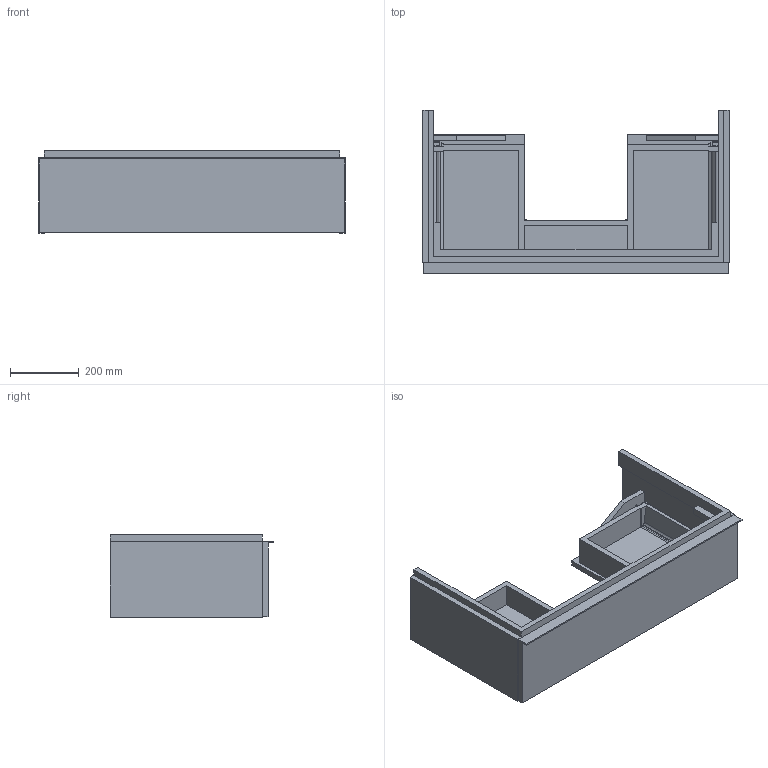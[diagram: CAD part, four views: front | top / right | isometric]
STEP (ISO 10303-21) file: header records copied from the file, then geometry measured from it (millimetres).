
FILE_DESCRIPTION(/* description */ (''),/* implementation_level */ '2;1');
FILE_NAME(/* name */ 'C:\Geberit-Teile\Export 2019\840290000\stp\841292000.stp',/* time_stamp */ '2019-07-19T13:40:23+02:00',/* author */ ('JANAN'),/* organization */ (''),/* preprocessor_version */ 'ST-DEVELOPER v16.13',/* originating_system */ 'Autodesk Inventor 2018',/* authorisation */ '');
FILE_SCHEMA (('AUTOMOTIVE_DESIGN { 1 0 10303 214 3 1 1 }'));
Length unit declared in the file: millimetre
Products named in the file (2): US-f-1-WT Ge+iCn B90 1-Schbl Ech-nat; 840290000
Assembly tree (1 placements, depth 2):
  US-f-1-WT Ge+iCn B90 1-Schbl Ech-nat
    840290000
Bounding box: 890 x 475.9 x 240 mm (x, y, z)
Volume: 18658421.5 mm3; surface area: 2576591.4 mm2
Topology: 1 solids, 1 shells, 378 faces, 1139 edges, 753 vertices
Faces by surface type: plane 356, cylinder 22
Entity records: 12660 total; most frequent: ORIENTED_EDGE 2278, CARTESIAN_POINT 2273, DIRECTION 1953, EDGE_CURVE 1139, LINE 1087, VECTOR 1087, VERTEX_POINT 753, AXIS2_PLACEMENT_3D 433
